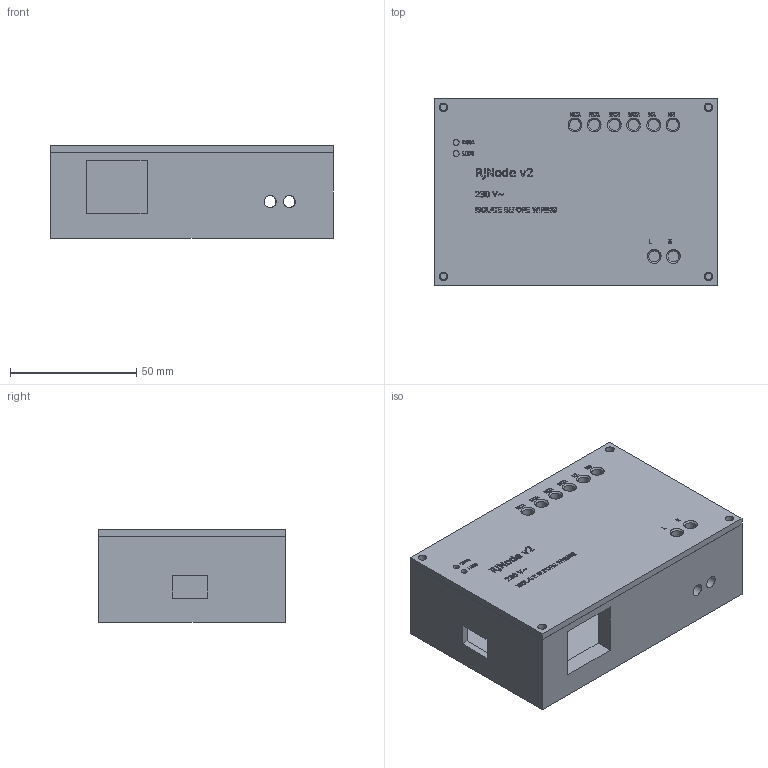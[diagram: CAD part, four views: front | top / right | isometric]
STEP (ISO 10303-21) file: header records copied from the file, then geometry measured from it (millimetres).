
FILE_DESCRIPTION(('FreeCAD Model'),'2;1');
FILE_NAME('Open CASCADE Shape Model','2026-11-16T15:21:33',('FreeCAD'),( 'FreeCAD'),'Open CASCADE STEP processor 7.9','FreeCAD','Unknown');
FILE_SCHEMA(('AUTOMOTIVE_DESIGN { 1 0 10303 214 1 1 1 1 }'));
Length unit declared in the file: millimetre
Products named in the file (1): Open CASCADE STEP translator 7.9 4
Bounding box: 112 x 74 x 36.8 mm (x, y, z)
Volume: 81481.9 mm3; surface area: 63582.7 mm2
Topology: 2 solids, 2 shells, 1068 faces, 2873 edges, 1920 vertices
Faces by surface type: bspline 1068
Entity records: 36414 total; most frequent: CARTESIAN_POINT 18615, ORIENTED_EDGE 5746, EDGE_CURVE 2873, B_SPLINE_CURVE_WITH_KNOTS 2723, VERTEX_POINT 1920, FACE_BOUND 1227, EDGE_LOOP 1227, ADVANCED_FACE 1068
